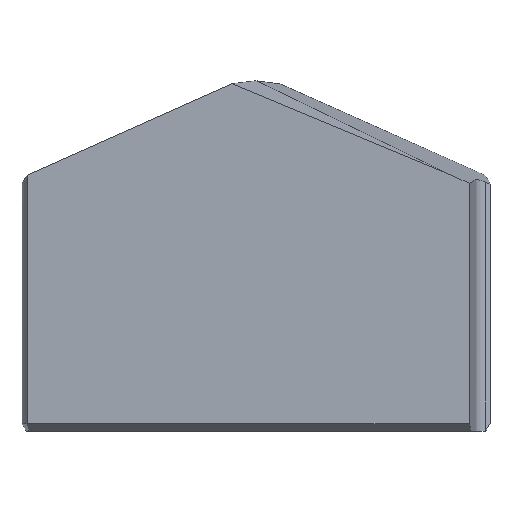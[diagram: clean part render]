
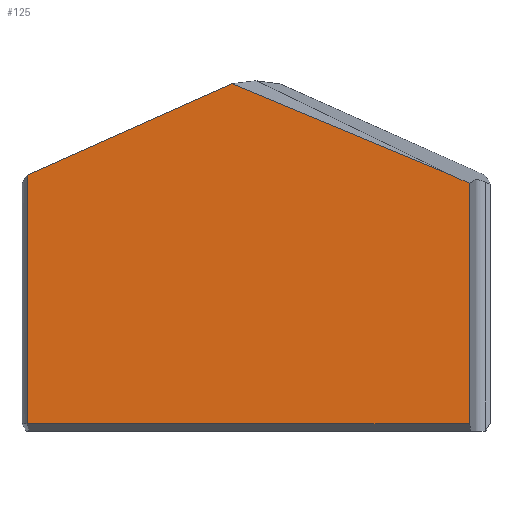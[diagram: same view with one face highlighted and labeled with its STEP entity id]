
A CAD part, top view. The second image highlights one B-rep face of the part: STEP entity #125.
In plain terms, the highlighted planar face has unit normal (0, 0, 1).
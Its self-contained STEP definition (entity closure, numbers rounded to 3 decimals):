
#5 = LINE ( 'NONE', #338, #355 ) ;
#23 = CARTESIAN_POINT ( 'NONE',  ( 5.181, 11.638, 4. ) ) ;
#37 = FACE_OUTER_BOUND ( 'NONE', #590, .T. ) ;
#42 = CARTESIAN_POINT ( 'NONE',  ( -9.308, 0.292, 4. ) ) ;
#44 = VECTOR ( 'NONE', #186, 1000. ) ;
#46 = EDGE_CURVE ( 'NONE', #275, #457, #535, .T. ) ;
#59 = DIRECTION ( 'NONE',  ( -0.923, 0.384, 0. ) ) ;
#74 = DIRECTION ( 'NONE',  ( 1., 0., 0. ) ) ;
#98 = CARTESIAN_POINT ( 'NONE',  ( 8.675, 0.289, 4. ) ) ;
#99 = CARTESIAN_POINT ( 'NONE',  ( -9.306, 0.289, 4. ) ) ;
#107 = EDGE_CURVE ( 'NONE', #372, #169, #619, .T. ) ;
#108 = ORIENTED_EDGE ( 'NONE', *, *, #107, .F. ) ;
#111 = CARTESIAN_POINT ( 'NONE',  ( -9.306, 0.289, 4. ) ) ;
#116 = VERTEX_POINT ( 'NONE', #561 ) ;
#125 = ADVANCED_FACE ( 'NONE', ( #37 ), #613, .T. ) ;
#127 = DIRECTION ( 'NONE',  ( -0.914, 0.407, 0. ) ) ;
#135 = ORIENTED_EDGE ( 'NONE', *, *, #611, .T. ) ;
#137 = EDGE_CURVE ( 'NONE', #457, #150, #320, .T. ) ;
#146 = CARTESIAN_POINT ( 'NONE',  ( -9.313, 0.3, 4. ) ) ;
#150 = VERTEX_POINT ( 'NONE', #318 ) ;
#157 = EDGE_CURVE ( 'NONE', #116, #169, #174, .T. ) ;
#159 = ORIENTED_EDGE ( 'NONE', *, *, #359, .T. ) ;
#163 = CARTESIAN_POINT ( 'NONE',  ( 4.869, 11.69, 4. ) ) ;
#167 = VECTOR ( 'NONE', #59, 1000. ) ;
#169 = VERTEX_POINT ( 'NONE', #475 ) ;
#174 = LINE ( 'NONE', #326, #44 ) ;
#177 = DIRECTION ( 'NONE',  ( 0., 1., 0. ) ) ;
#183 = ORIENTED_EDGE ( 'NONE', *, *, #381, .T. ) ;
#186 = DIRECTION ( 'NONE',  ( -0.914, -0.407, 0. ) ) ;
#189 = VECTOR ( 'NONE', #127, 1000. ) ;
#194 = ORIENTED_EDGE ( 'NONE', *, *, #137, .T. ) ;
#232 = VECTOR ( 'NONE', #367, 1000. ) ;
#246 = DIRECTION ( 'NONE',  ( 1., 0., 0. ) ) ;
#269 = CARTESIAN_POINT ( 'NONE',  ( 0., 0., 4. ) ) ;
#271 = DIRECTION ( 'NONE',  ( 0., 0., 1. ) ) ;
#275 = VERTEX_POINT ( 'NONE', #98 ) ;
#282 = CARTESIAN_POINT ( 'NONE',  ( -9.31, 0.296, 4. ) ) ;
#318 = CARTESIAN_POINT ( 'NONE',  ( 7.877, 10.437, 4. ) ) ;
#320 = LINE ( 'NONE', #23, #189 ) ;
#326 = CARTESIAN_POINT ( 'NONE',  ( 0., 14.56, 4. ) ) ;
#332 = CARTESIAN_POINT ( 'NONE',  ( -9.313, 0.3, 4. ) ) ;
#338 = CARTESIAN_POINT ( 'NONE',  ( 9.135, 0.289, 4. ) ) ;
#343 = VECTOR ( 'NONE', #177, 1000. ) ;
#355 = VECTOR ( 'NONE', #246, 1000. ) ;
#359 = EDGE_CURVE ( 'NONE', #630, #275, #5, .T. ) ;
#367 = DIRECTION ( 'NONE',  ( 0., 1., 0. ) ) ;
#372 = VERTEX_POINT ( 'NONE', #332 ) ;
#381 = EDGE_CURVE ( 'NONE', #372, #630, #506, .T. ) ;
#393 = AXIS2_PLACEMENT_3D ( 'NONE', #269, #271, #74 ) ;
#417 = ORIENTED_EDGE ( 'NONE', *, *, #157, .T. ) ;
#452 = ORIENTED_EDGE ( 'NONE', *, *, #46, .T. ) ;
#457 = VERTEX_POINT ( 'NONE', #635 ) ;
#475 = CARTESIAN_POINT ( 'NONE',  ( -9.313, 10.414, 4. ) ) ;
#506 = B_SPLINE_CURVE_WITH_KNOTS ( 'NONE', 3,
 ( #146, #282, #42, #99 ),
 .UNSPECIFIED., .F., .F.,
 ( 4, 4 ),
 ( 0., 0. ),
 .UNSPECIFIED. ) ;
#535 = LINE ( 'NONE', #616, #232 ) ;
#558 = CARTESIAN_POINT ( 'NONE',  ( -9.313, 0., 4. ) ) ;
#561 = CARTESIAN_POINT ( 'NONE',  ( -0.977, 14.125, 4. ) ) ;
#564 = LINE ( 'NONE', #163, #167 ) ;
#590 = EDGE_LOOP ( 'NONE', ( #194, #135, #417, #108, #183, #159, #452 ) ) ;
#611 = EDGE_CURVE ( 'NONE', #150, #116, #564, .T. ) ;
#613 = PLANE ( 'NONE',  #393 ) ;
#616 = CARTESIAN_POINT ( 'NONE',  ( 8.675, 0., 4. ) ) ;
#619 = LINE ( 'NONE', #558, #343 ) ;
#630 = VERTEX_POINT ( 'NONE', #111 ) ;
#635 = CARTESIAN_POINT ( 'NONE',  ( 8.675, 10.082, 4. ) ) ;
